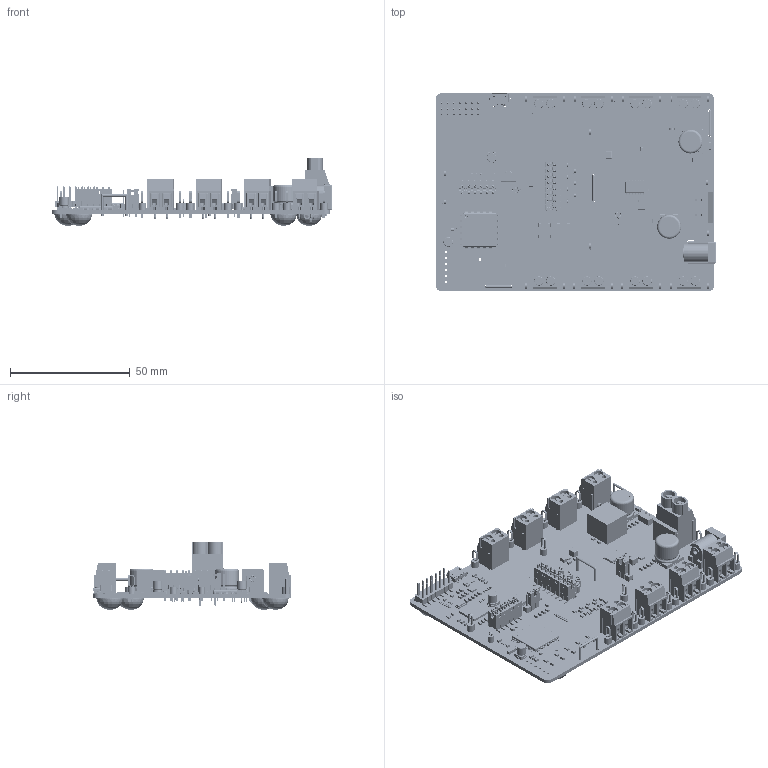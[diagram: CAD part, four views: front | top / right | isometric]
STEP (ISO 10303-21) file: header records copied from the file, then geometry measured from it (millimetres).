
FILE_DESCRIPTION(('Open CASCADE Model'),'2;1');
FILE_NAME('Open CASCADE Shape Model','2024-07-19T14:13:55',('Author'),( 'Open CASCADE'),'Open CASCADE STEP processor 7.5','Open CASCADE 7.5' ,'Unknown');
FILE_SCHEMA(('AUTOMOTIVE_DESIGN { 1 0 10303 214 1 1 1 1 }'));
Length unit declared in the file: millimetre
Products named in the file (498): PCB; Board; Open CASCADE STEP translator 7.5 1.1.1; J2; 694106301002; 694106301002_7; 694106301002_2; 694106301002_1; 694106301002_6; 694106301002_3; 694106301002_5; TP20; Keystone_5010; Keystone_multipurpose_wire; Keystone5005_red; U7; 6840862944; Extruded; 6840863104; C9; Cap_885012205018_0402; terminals; body; logo; TP35; Keystone_5011; Keystone5006_black; TP1; R68; 6840859584; 6840859424; J11; Conn_629105150921_CONN_PTH_USB_8MM0_5MM6; A1; 629105150921; 629105150921_Pin; 629105150921_1; Wurth Electronik; notch; R56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
Assembly tree (894 placements, depth 5):
  PCB
    Board
      Open CASCADE STEP translator 7.5 1.1.1
    J2
      694106301002
        694106301002_7
        694106301002_2
        694106301002_1
        694106301002_6
        694106301002_3
        694106301002_5
    TP20
      Keystone_5010
        Keystone_multipurpose_wire
        Keystone5005_red
    U7
      6840862944
        Extruded
      6840863104
        Extruded
    C9
      Cap_885012205018_0402
        terminals
        body
        logo
    TP35
      Keystone_5011
        Keystone_multipurpose_wire
        Keystone5006_black
    TP1
      Keystone_5011
        Keystone_multipurpose_wire
        Keystone5006_black
    R68
      6840859584  x2
        Extruded
      6840859424
        Extruded
    J11
      Conn_629105150921_CONN_PTH_USB_8MM0_5MM6
        A1
          629105150921
          629105150921_Pin  x5
          629105150921_1
        Wurth Electronik
        notch
    R56
      6840859184  x2
        Extruded
      6840859024
        Extruded
    R58
      6840859584  x2
        Extruded
      6840859424
        Extruded
    R59
      6840859584  x2
        Extruded
      6840859424
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Bounding box: 116.99 x 82.85 x 28.17 mm (x, y, z)
Volume: 31632.3 mm3; surface area: 56749.7 mm2
Topology: 1405 solids, 1405 shells, 27136 faces, 69403 edges, 45012 vertices
Faces by surface type: plane 19659, cylinder 4166, bspline 2530, sphere 464, torus 263, cone 50, revolution 4
Full cylindrical faces by diameter (mm): 0.005 x4, 0.191 x1, 0.2 x1, 0.5 x2, 0.58 x2, 0.75 x2, 0.9 x12, 0.95 x16, 0.98 x2, 1.016 x15, 1.05 x9, 1.127 x6, 1.138 x2, 1.15 x6, 1.3 x22, 1.357 x1, 1.5 x3, 1.6 x24, 1.8 x1, 2 x5, 2.2 x16, 2.42 x2, 2.459 x16, 2.5 x10, 2.8 x2, 3 x49, 3.1 x16, 3.15 x1, 3.2 x24, 3.56 x2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
Entity records: 403807 total; most frequent: CARTESIAN_POINT 76855, ORIENTED_EDGE 58118, DIRECTION 53297, EDGE_CURVE 29059, LINE 22738, VECTOR 22738, VERTEX_POINT 18967, AXIS2_PLACEMENT_3D 15279
